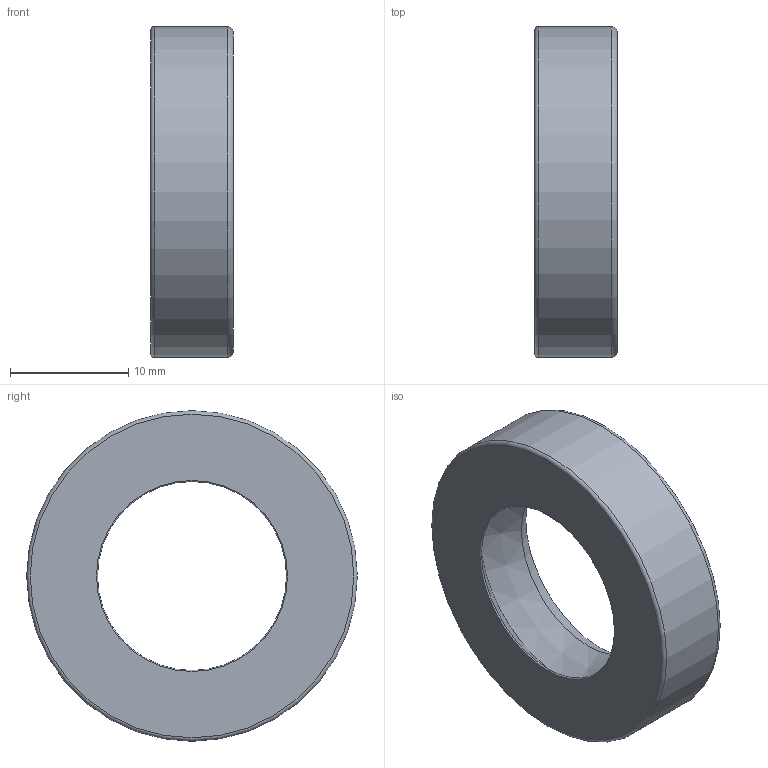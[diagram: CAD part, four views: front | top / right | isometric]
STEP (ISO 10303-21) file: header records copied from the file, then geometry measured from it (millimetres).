
FILE_DESCRIPTION(/* description */ ('오일-실'),/* implementation_level */ '2;1');
FILE_NAME(/* name */ '',/* time_stamp */ '2026-09-29T15:29:02+09:00',/* author */ ('jhkim'),/* organization */ (''),/* preprocessor_version */ 'ST-DEVELOPER v20.1',/* originating_system */ 'Autodesk Inventor 2027',/* authorisation */ '');
FILE_SCHEMA (('AUTOMOTIVE_DESIGN { 1 0 10303 214 3 1 1 }'));
Length unit declared in the file: millimetre
Products named in the file (1): 오일 실 16 28 7
Bounding box: 7 x 28 x 28 mm (x, y, z)
Volume: 1853.5 mm3; surface area: 2509 mm2
Topology: 1 solids, 1 shells, 16 faces, 34 edges, 22 vertices
Faces by surface type: torus 5, plane 4, cone 4, cylinder 3
Full cylindrical faces by diameter (mm): 20.2 x1, 24.5 x1, 28 x1
Entity records: 496 total; most frequent: DIRECTION 95, CARTESIAN_POINT 73, ORIENTED_EDGE 68, AXIS2_PLACEMENT_3D 44, EDGE_CURVE 34, CIRCLE 27, VERTEX_POINT 22, EDGE_LOOP 20
